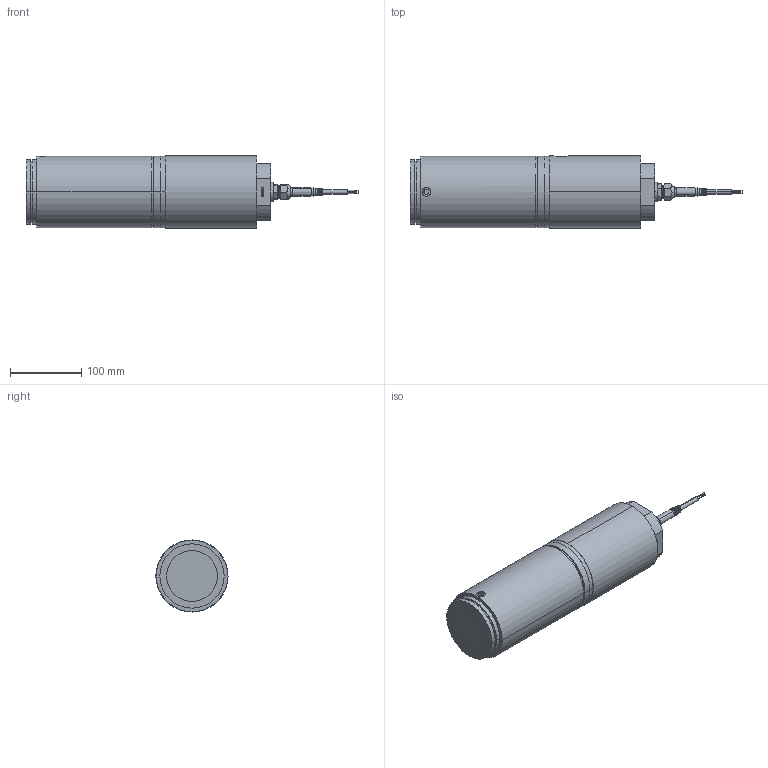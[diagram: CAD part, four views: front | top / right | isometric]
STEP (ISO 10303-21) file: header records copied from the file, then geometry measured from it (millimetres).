
FILE_DESCRIPTION (( 'STEP AP214' ), '1' );
FILE_NAME ('KIS-1 200 kN Load Cell.STEP', '2021-06-30T13:52:14', ( '' ), ( '' ), 'SwSTEP 2.0', 'SolidWorks 2021', '' );
FILE_SCHEMA (( 'AUTOMOTIVE_DESIGN' ));
Length unit declared in the file: millimetre
Products named in the file (8): M26x1.5 - Pg9 - 6369829; 4095995r3; Tätning Hylsa Silikon^1157654 - KIS-1 200kN - Rostfri; Pg9 - 1009.52 6_2_14; KIS-1 200 kN Load Cell; Standardkabel 4-Cond PVC; Wiberger-frp_12x20; 5196893r1
Assembly tree (7 placements, depth 2):
  KIS-1 200 kN Load Cell
    4095995r3
    5196893r1
    Tätning Hylsa Silikon^1157654 - KIS-1 200kN - Rostfri
    M26x1.5 - Pg9 - 6369829
    Pg9 - 1009.52 6_2_14
    Standardkabel 4-Cond PVC
    Wiberger-frp_12x20
Bounding box: 465 x 101 x 101 mm (x, y, z)
Volume: 2608032.8 mm3; surface area: 237601.5 mm2
Topology: 7 solids, 10 shells, 450 faces, 1088 edges, 701 vertices
Faces by surface type: plane 208, cylinder 113, bspline 65, cone 52, torus 12
Entity records: 19390 total; most frequent: CARTESIAN_POINT 5939, ORIENTED_EDGE 2172, DIRECTION 2102, EDGE_CURVE 1086, AXIS2_PLACEMENT_3D 739, VERTEX_POINT 701, VECTOR 624, LINE 624
